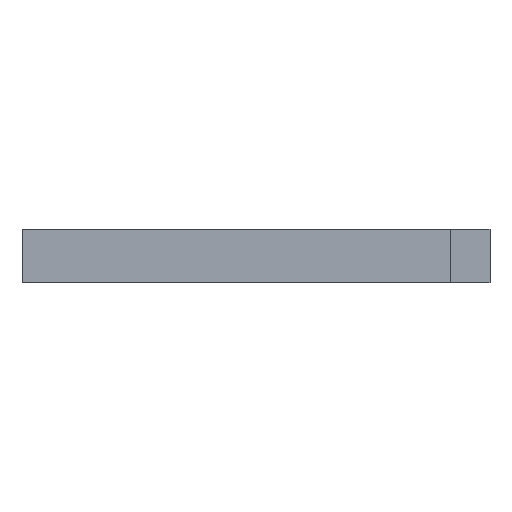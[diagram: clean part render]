
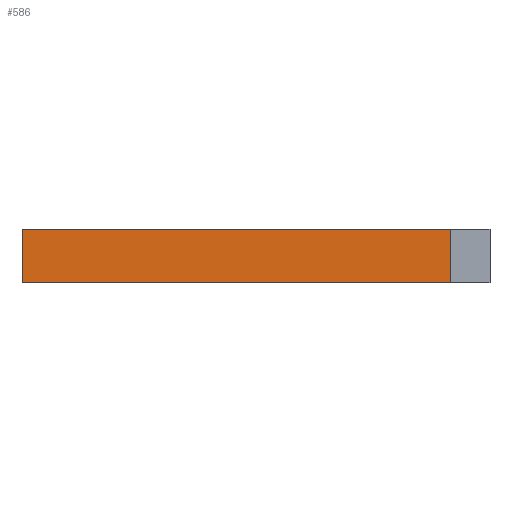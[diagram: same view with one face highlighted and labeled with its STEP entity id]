
A CAD part, front view. The second image highlights one B-rep face of the part: STEP entity #586.
In plain terms, the highlighted planar face has unit normal (0, -1, 0).
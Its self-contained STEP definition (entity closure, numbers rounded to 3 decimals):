
#50 = PLANE('',#51);
#51 = AXIS2_PLACEMENT_3D('',#52,#53,#54);
#52 = CARTESIAN_POINT('',(-62.2,-42.,4.8));
#53 = DIRECTION('',(1.,0.,0.));
#54 = DIRECTION('',(0.,0.,1.));
#216 = VERTEX_POINT('',#217);
#217 = CARTESIAN_POINT('',(-62.2,-42.,61.));
#231 = PLANE('',#232);
#232 = AXIS2_PLACEMENT_3D('',#233,#234,#235);
#233 = CARTESIAN_POINT('',(-62.2,-42.,61.));
#234 = DIRECTION('',(0.,0.,1.));
#235 = DIRECTION('',(1.,0.,-0.));
#243 = EDGE_CURVE('',#244,#216,#246,.T.);
#244 = VERTEX_POINT('',#245);
#245 = CARTESIAN_POINT('',(-62.2,-42.,9.6));
#246 = SURFACE_CURVE('',#247,(#251,#258),.PCURVE_S1.);
#247 = LINE('',#248,#249);
#248 = CARTESIAN_POINT('',(-62.2,-42.,4.8));
#249 = VECTOR('',#250,1.);
#250 = DIRECTION('',(0.,0.,1.));
#251 = PCURVE('',#50,#252);
#252 = DEFINITIONAL_REPRESENTATION('',(#253),#257);
#253 = LINE('',#254,#255);
#254 = CARTESIAN_POINT('',(0.,0.));
#255 = VECTOR('',#256,1.);
#256 = DIRECTION('',(1.,0.));
#257 = ( GEOMETRIC_REPRESENTATION_CONTEXT(2) 
PARAMETRIC_REPRESENTATION_CONTEXT() REPRESENTATION_CONTEXT('2D SPACE',''
  ) );
#258 = PCURVE('',#259,#264);
#259 = PLANE('',#260);
#260 = AXIS2_PLACEMENT_3D('',#261,#262,#263);
#261 = CARTESIAN_POINT('',(-62.2,-42.,4.8));
#262 = DIRECTION('',(0.,1.,0.));
#263 = DIRECTION('',(0.,-0.,1.));
#264 = DEFINITIONAL_REPRESENTATION('',(#265),#269);
#265 = LINE('',#266,#267);
#266 = CARTESIAN_POINT('',(0.,0.));
#267 = VECTOR('',#268,1.);
#268 = DIRECTION('',(1.,0.));
#269 = ( GEOMETRIC_REPRESENTATION_CONTEXT(2) 
PARAMETRIC_REPRESENTATION_CONTEXT() REPRESENTATION_CONTEXT('2D SPACE',''
  ) );
#287 = PLANE('',#288);
#288 = AXIS2_PLACEMENT_3D('',#289,#290,#291);
#289 = CARTESIAN_POINT('',(-62.2,-53.,9.6));
#290 = DIRECTION('',(0.,0.,1.));
#291 = DIRECTION('',(1.,0.,-0.));
#367 = PLANE('',#368);
#368 = AXIS2_PLACEMENT_3D('',#369,#370,#371);
#369 = CARTESIAN_POINT('',(-55.8,-42.,4.8));
#370 = DIRECTION('',(1.,0.,0.));
#371 = DIRECTION('',(0.,0.,1.));
#518 = VERTEX_POINT('',#519);
#519 = CARTESIAN_POINT('',(-55.8,-42.,9.6));
#540 = EDGE_CURVE('',#244,#518,#541,.T.);
#541 = SURFACE_CURVE('',#542,(#546,#553),.PCURVE_S1.);
#542 = LINE('',#543,#544);
#543 = CARTESIAN_POINT('',(-62.2,-42.,9.6));
#544 = VECTOR('',#545,1.);
#545 = DIRECTION('',(1.,0.,0.));
#546 = PCURVE('',#287,#547);
#547 = DEFINITIONAL_REPRESENTATION('',(#548),#552);
#548 = LINE('',#549,#550);
#549 = CARTESIAN_POINT('',(0.,11.));
#550 = VECTOR('',#551,1.);
#551 = DIRECTION('',(1.,0.));
#552 = ( GEOMETRIC_REPRESENTATION_CONTEXT(2) 
PARAMETRIC_REPRESENTATION_CONTEXT() REPRESENTATION_CONTEXT('2D SPACE',''
  ) );
#553 = PCURVE('',#259,#554);
#554 = DEFINITIONAL_REPRESENTATION('',(#555),#559);
#555 = LINE('',#556,#557);
#556 = CARTESIAN_POINT('',(4.8,0.));
#557 = VECTOR('',#558,1.);
#558 = DIRECTION('',(0.,1.));
#559 = ( GEOMETRIC_REPRESENTATION_CONTEXT(2) 
PARAMETRIC_REPRESENTATION_CONTEXT() REPRESENTATION_CONTEXT('2D SPACE',''
  ) );
#586 = ADVANCED_FACE('',(#587),#259,.F.);
#587 = FACE_BOUND('',#588,.F.);
#588 = EDGE_LOOP('',(#589,#612,#613,#614));
#589 = ORIENTED_EDGE('',*,*,#590,.F.);
#590 = EDGE_CURVE('',#518,#591,#593,.T.);
#591 = VERTEX_POINT('',#592);
#592 = CARTESIAN_POINT('',(-55.8,-42.,61.));
#593 = SURFACE_CURVE('',#594,(#598,#605),.PCURVE_S1.);
#594 = LINE('',#595,#596);
#595 = CARTESIAN_POINT('',(-55.8,-42.,4.8));
#596 = VECTOR('',#597,1.);
#597 = DIRECTION('',(0.,0.,1.));
#598 = PCURVE('',#259,#599);
#599 = DEFINITIONAL_REPRESENTATION('',(#600),#604);
#600 = LINE('',#601,#602);
#601 = CARTESIAN_POINT('',(0.,6.4));
#602 = VECTOR('',#603,1.);
#603 = DIRECTION('',(1.,0.));
#604 = ( GEOMETRIC_REPRESENTATION_CONTEXT(2) 
PARAMETRIC_REPRESENTATION_CONTEXT() REPRESENTATION_CONTEXT('2D SPACE',''
  ) );
#605 = PCURVE('',#367,#606);
#606 = DEFINITIONAL_REPRESENTATION('',(#607),#611);
#607 = LINE('',#608,#609);
#608 = CARTESIAN_POINT('',(0.,0.));
#609 = VECTOR('',#610,1.);
#610 = DIRECTION('',(1.,0.));
#611 = ( GEOMETRIC_REPRESENTATION_CONTEXT(2) 
PARAMETRIC_REPRESENTATION_CONTEXT() REPRESENTATION_CONTEXT('2D SPACE',''
  ) );
#612 = ORIENTED_EDGE('',*,*,#540,.F.);
#613 = ORIENTED_EDGE('',*,*,#243,.T.);
#614 = ORIENTED_EDGE('',*,*,#615,.T.);
#615 = EDGE_CURVE('',#216,#591,#616,.T.);
#616 = SURFACE_CURVE('',#617,(#621,#628),.PCURVE_S1.);
#617 = LINE('',#618,#619);
#618 = CARTESIAN_POINT('',(-62.2,-42.,61.));
#619 = VECTOR('',#620,1.);
#620 = DIRECTION('',(1.,0.,0.));
#621 = PCURVE('',#259,#622);
#622 = DEFINITIONAL_REPRESENTATION('',(#623),#627);
#623 = LINE('',#624,#625);
#624 = CARTESIAN_POINT('',(56.2,0.));
#625 = VECTOR('',#626,1.);
#626 = DIRECTION('',(0.,1.));
#627 = ( GEOMETRIC_REPRESENTATION_CONTEXT(2) 
PARAMETRIC_REPRESENTATION_CONTEXT() REPRESENTATION_CONTEXT('2D SPACE',''
  ) );
#628 = PCURVE('',#231,#629);
#629 = DEFINITIONAL_REPRESENTATION('',(#630),#634);
#630 = LINE('',#631,#632);
#631 = CARTESIAN_POINT('',(0.,0.));
#632 = VECTOR('',#633,1.);
#633 = DIRECTION('',(1.,0.));
#634 = ( GEOMETRIC_REPRESENTATION_CONTEXT(2) 
PARAMETRIC_REPRESENTATION_CONTEXT() REPRESENTATION_CONTEXT('2D SPACE',''
  ) );
